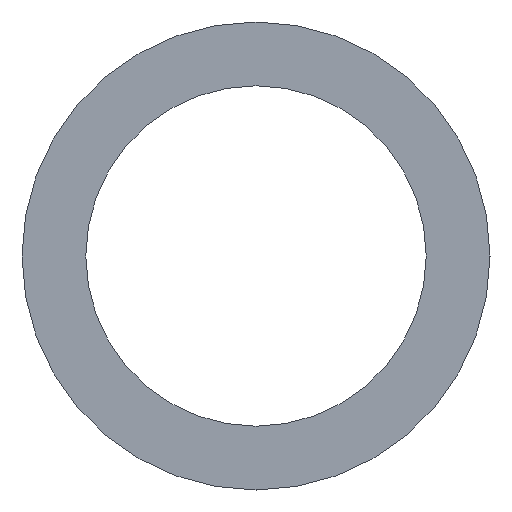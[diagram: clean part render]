
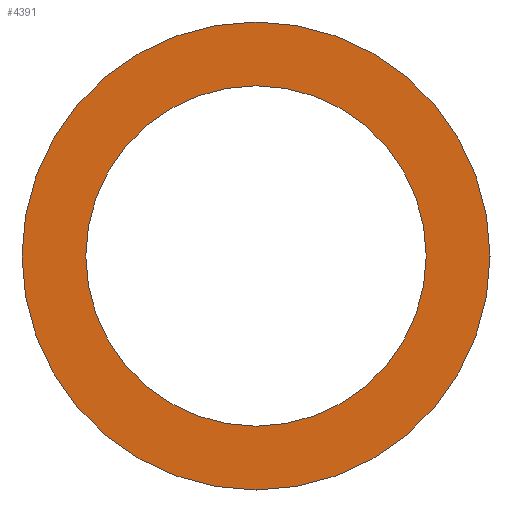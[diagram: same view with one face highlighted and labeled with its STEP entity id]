
A CAD part, front view. The second image highlights one B-rep face of the part: STEP entity #4391.
In plain terms, the highlighted planar face has unit normal (0, -1, 0).
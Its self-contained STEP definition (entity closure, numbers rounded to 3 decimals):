
#12 = ORIENTED_EDGE ( 'NONE', *, *, #69, .F. ) ;
#19 = DIRECTION ( 'NONE',  ( 0., 0., -1. ) ) ;
#69 = EDGE_CURVE ( 'NONE', #3685, #3023, #137, .T. ) ;
#105 = EDGE_LOOP ( 'NONE', ( #2475, #12 ) ) ;
#137 = CIRCLE ( 'NONE', #820, 60. ) ;
#213 = DIRECTION ( 'NONE',  ( 0., 0., 1. ) ) ;
#350 = DIRECTION ( 'NONE',  ( 0., -1., 0. ) ) ;
#655 = CARTESIAN_POINT ( 'NONE',  ( 0., -29., 82.5 ) ) ;
#741 = CARTESIAN_POINT ( 'NONE',  ( 0., -29., 0. ) ) ;
#802 = CARTESIAN_POINT ( 'NONE',  ( 0., -29., 60. ) ) ;
#820 = AXIS2_PLACEMENT_3D ( 'NONE', #741, #1123, #3203 ) ;
#968 = EDGE_CURVE ( 'NONE', #3037, #2619, #4043, .T. ) ;
#1123 = DIRECTION ( 'NONE',  ( 0., -1., 0. ) ) ;
#1295 = AXIS2_PLACEMENT_3D ( 'NONE', #2361, #3381, #213 ) ;
#1338 = DIRECTION ( 'NONE',  ( 0., -1., 0. ) ) ;
#1366 = DIRECTION ( 'NONE',  ( 0., 0., -1. ) ) ;
#1425 = AXIS2_PLACEMENT_3D ( 'NONE', #4473, #1338, #2674 ) ;
#1978 = PLANE ( 'NONE',  #1295 ) ;
#2017 = CARTESIAN_POINT ( 'NONE',  ( 0., -29., 0. ) ) ;
#2036 = FACE_BOUND ( 'NONE', #105, .T. ) ;
#2144 = CARTESIAN_POINT ( 'NONE',  ( 0., -29., 0. ) ) ;
#2242 = CIRCLE ( 'NONE', #3757, 60. ) ;
#2330 = EDGE_CURVE ( 'NONE', #2619, #3037, #4247, .T. ) ;
#2361 = CARTESIAN_POINT ( 'NONE',  ( 0., -29., 60. ) ) ;
#2461 = ORIENTED_EDGE ( 'NONE', *, *, #968, .T. ) ;
#2475 = ORIENTED_EDGE ( 'NONE', *, *, #3589, .F. ) ;
#2619 = VERTEX_POINT ( 'NONE', #4303 ) ;
#2674 = DIRECTION ( 'NONE',  ( 0., 0., -1. ) ) ;
#3023 = VERTEX_POINT ( 'NONE', #3500 ) ;
#3037 = VERTEX_POINT ( 'NONE', #655 ) ;
#3203 = DIRECTION ( 'NONE',  ( 0., 0., -1. ) ) ;
#3346 = ORIENTED_EDGE ( 'NONE', *, *, #2330, .T. ) ;
#3381 = DIRECTION ( 'NONE',  ( 0., 1., 0. ) ) ;
#3500 = CARTESIAN_POINT ( 'NONE',  ( 0., -29., -60. ) ) ;
#3589 = EDGE_CURVE ( 'NONE', #3023, #3685, #2242, .T. ) ;
#3629 = FACE_OUTER_BOUND ( 'NONE', #3854, .T. ) ;
#3685 = VERTEX_POINT ( 'NONE', #802 ) ;
#3757 = AXIS2_PLACEMENT_3D ( 'NONE', #2144, #350, #19 ) ;
#3802 = DIRECTION ( 'NONE',  ( 0., -1., 0. ) ) ;
#3854 = EDGE_LOOP ( 'NONE', ( #3346, #2461 ) ) ;
#4043 = CIRCLE ( 'NONE', #1425, 82.5 ) ;
#4247 = CIRCLE ( 'NONE', #4273, 82.5 ) ;
#4273 = AXIS2_PLACEMENT_3D ( 'NONE', #2017, #3802, #1366 ) ;
#4303 = CARTESIAN_POINT ( 'NONE',  ( 0., -29., -82.5 ) ) ;
#4391 = ADVANCED_FACE ( 'NONE', ( #2036, #3629 ), #1978, .F. ) ;
#4473 = CARTESIAN_POINT ( 'NONE',  ( 0., -29., 0. ) ) ;
